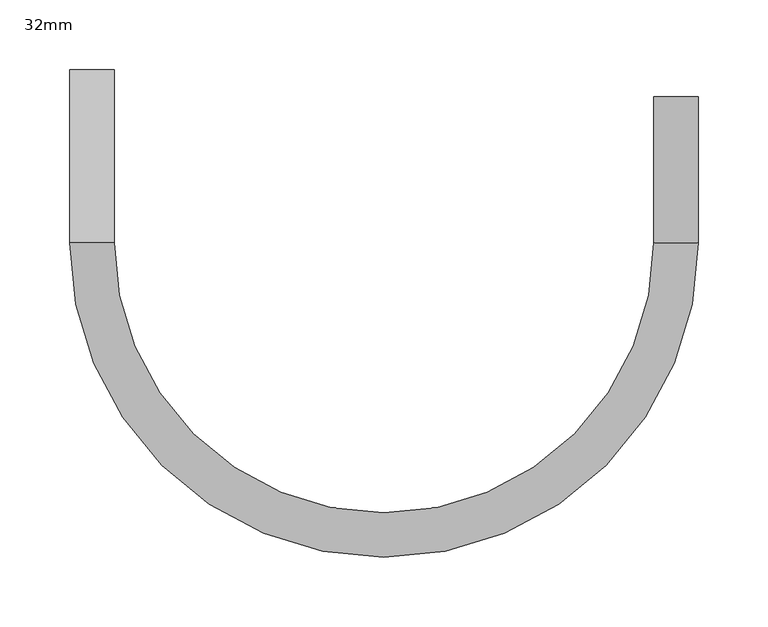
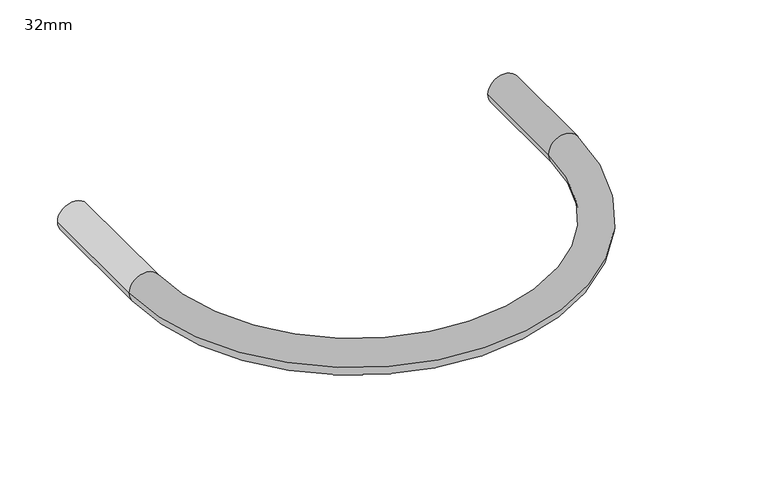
"""IFC4 building model written with IfcOpenShell, lengths in millimetres: pipe fitting geometry, PipeAccessory_HTA_CPVC_ExpansionJoints : 32mm."""

from ifc_helpers import new_model, si_unit, point, frame, origin, origin_with_axes, place, context, project, spatial, circle_curve, ellipse_curve, trimmed, source, transform, mapped, element, save
from ifc_brep_helpers import plane_surface, cylinder_surface, revolved_surface, advanced_brep


def pipe_fitting_32mm_8bc5c4ab(model_context):
    return source(origin(), model_context, "Body", "AdvancedBrep", [
        advanced_brep(
        [(194.0, 105.0, 0.0), (226.0, 105.0, 0.0), (194.0, 0.0, 0.0), (226.0, 0.0, 0.0), (-226.0, 0.0, 0.0), (-194.0, 0.0, 0.0), (-194.0, 124.5, 0.0), (-226.0, 124.5, 0.0)],
        [
            (0, 1, circle_curve(frame((210.0, 105.0, 0.0), z_axis=(0.0, 1.0, 0.0), x_axis=(1.0, 0.0, 0.0)), 16.0)),
            (1, 0, circle_curve(frame((210.0, 105.0, 0.0), z_axis=(0.0, 1.0, 0.0), x_axis=(1.0, 0.0, 0.0)), 16.0)),
            (0, 2),
            (2, 3, circle_curve(frame((210.0, 0.0, 0.0), z_axis=(0.0, 1.0, 0.0), x_axis=(1.0, 0.0, 0.0)), 16.0)),
            (3, 1),
            (3, 2, circle_curve(frame((210.0, 0.0, 0.0), z_axis=(0.0, 1.0, 0.0), x_axis=(1.0, 0.0, 0.0)), 16.0)),
            (4, 3, circle_curve(origin_with_axes(), 226.0)),
            (2, 5, circle_curve(frame((0.0, 0.0, 0.0), z_axis=(0.0, 0.0, -1.0), x_axis=(1.0, 0.0, 0.0)), 194.0)),
            (5, 4, circle_curve(frame((-210.0, 0.0, 0.0), z_axis=(0.0, -1.0, 0.0), x_axis=(-1.0, 0.0, 0.0)), 16.0)),
            (4, 5, circle_curve(frame((-210.0, 0.0, 0.0), z_axis=(0.0, -1.0, 0.0), x_axis=(-1.0, 0.0, 0.0)), 16.0)),
            (6, 7, circle_curve(frame((-210.0, 124.5, 0.0), z_axis=(0.0, 1.0, 0.0), x_axis=(-1.0, 0.0, 0.0)), 16.0)),
            (7, 6, circle_curve(frame((-210.0, 124.5, 0.0), z_axis=(0.0, 1.0, 0.0), x_axis=(-1.0, 0.0, 0.0)), 16.0)),
            (5, 6),
            (7, 4),
        ],
        [
            plane_surface(frame((210.0, 105.0, 0.0), z_axis=(0.0, 1.0, 0.0), x_axis=(0.0, 0.0, 1.0))),
            cylinder_surface(frame((210.0, 105.0, 0.0), z_axis=(0.0, 1.0, 0.0), x_axis=(1.0, 0.0, 0.0)), 16.0),
            revolved_surface(trimmed(ellipse_curve(frame((210.0, 0.0, 0.0), z_axis=(0.0, 1.0, 0.0), x_axis=(1.0, 0.0, 0.0)), 16.0, 16.0), [point((194.0, 0.0, 0.0))], [point((226.0, 0.0, 0.0))], True, "CARTESIAN"), (0.0, 0.0, 0.0), (0.0, 0.0, -1.0)),
            revolved_surface(trimmed(ellipse_curve(frame((210.0, 0.0, 0.0), z_axis=(0.0, 1.0, 0.0), x_axis=(1.0, 0.0, 0.0)), 16.0, 16.0), [point((226.0, 0.0, 0.0))], [point((194.0, 0.0, 0.0))], True, "CARTESIAN"), (0.0, 0.0, 0.0), (0.0, 0.0, -1.0)),
            plane_surface(frame((-210.0, 124.5, 0.0), z_axis=(0.0, 1.0, 0.0), x_axis=(0.0, 0.0, 1.0))),
            cylinder_surface(frame((-210.0, 0.0, 0.0), z_axis=(0.0, -1.0, 0.0), x_axis=(-1.0, 0.0, 0.0)), 16.0),
        ],
        [
            (0, [[1, 2]]),
            (1, [[-1, 3, 4, 5]]),
            (1, [[-2, -5, 6, -3]]),
            (2, [[7, -4, 8, 9]]),
            (3, [[-8, -6, -7, 10]]),
            (4, [[11, 12]]),
            (5, [[-9, 13, -12, 14]]),
            (5, [[-10, -14, -11, -13]]),
        ],
    ),
    ])


if __name__ == "__main__":
    model = new_model("IFC4")
    model_context = context("Model", 3, world=origin())
    ifc_project = project(units=[si_unit("LENGTHUNIT", "METRE", prefix="MILLI")], contexts=[model_context])
    site = spatial("IfcSite", under=ifc_project)
    building = spatial("IfcBuilding", under=site)
    placement = place(None, origin())
    pipe_fitting_32mm_shape = pipe_fitting_32mm_8bc5c4ab(model_context)
    element("IfcPipeFitting", 1, ObjectType="PipeAccessory_HTA_CPVC_ExpansionJoints : 32mm", at=placement, inside=building, context=model_context, shape_type="MappedRepresentation", body=[
        mapped(pipe_fitting_32mm_shape, transform((0.0, 0.0, 0.0), x_axis=(1.0, 0.0, 0.0), y_axis=(0.0, 1.0, 0.0), z_axis=(0.0, 0.0, 1.0))),
    ])
    save(model, "model.ifc")
